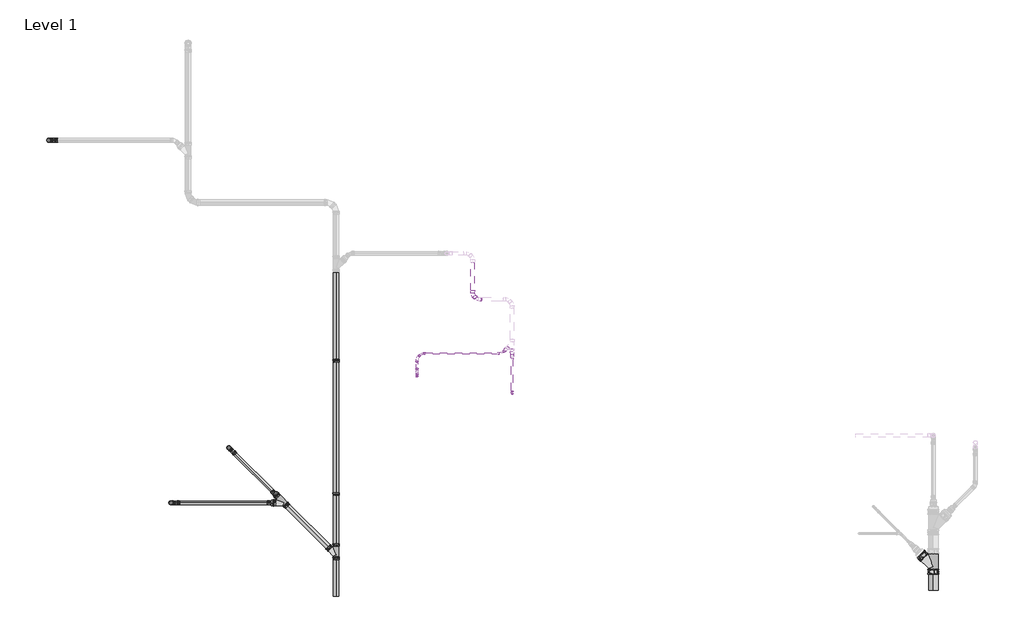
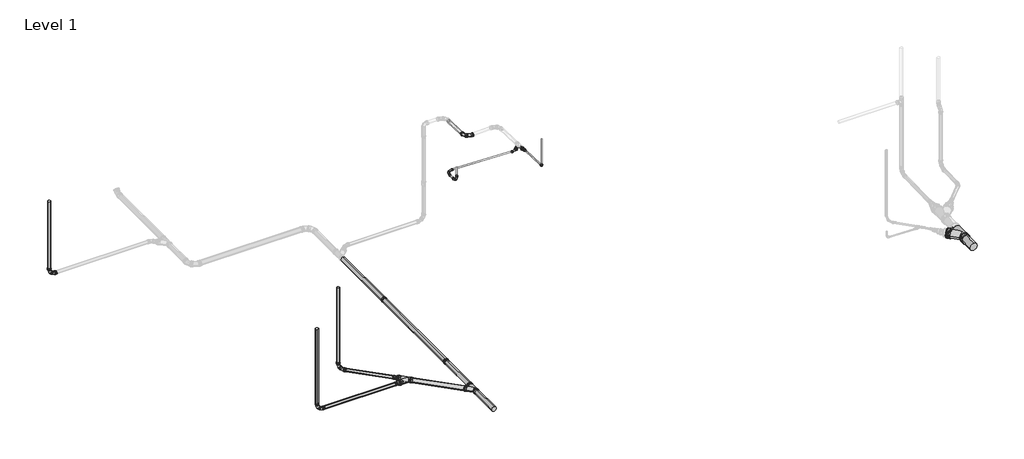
# One storey, part 1 of 7: 72 pipe fittings, 17 pipe segments.
"""IFC4 building model written with IfcOpenShell, lengths in millimetres."""

from ifc_helpers import new_model, si_unit, point, frame, frame_2d, origin, place, context, project, spatial, circle_curve, trimmed, segment, composite_curve, outline, extrude, transform, mapped, element, save
from components import std_37057e49, std_512bb775, std_3df9fb00, std_2878dd30, std_f0847e49, std_7ccef80b, std_0ddcd905, std_1f125482, std_4019324e, std_dbb25919, std_369a79f5, std_nested_5daa23bf, std_nested_5b5722a1, std_nested_f4b71964, std_nested_7094c661, std_nested_2aa3ba4e, std_nested_09001758, std_nested_0d9e00e9, std_nested_0554dc6d, std_nested_e6348f04, std_nested_a5353b42, std_nested_638a4417, std_nested_4ea8f2c9, std_nested_01edd257, std_nested_89a7624e, std_nested_dd60fd8d, std_nested_b0fd537b, std_nested_82956641, std_nested_596bb4c3, std_nested_6f421a5c, std_nested_473bf3f7, std_nested_352c3d66, std_nested_72f87268, std_nested_dc9893ff

model = new_model("IFC4")

# Units and contexts
model_context = context("Model", 3, world=origin())
ifc_project = project(units=[si_unit("LENGTHUNIT", "METRE", prefix="MILLI")], contexts=[model_context])

# Site, building, storey
site = spatial("IfcSite", under=ifc_project)
building = spatial("IfcBuilding", under=site)
storey = spatial("IfcBuildingStorey", under=building, Name="Level 1", Elevation=0.0)

# Pipe fittings
placement = place(None, origin())
std_shape = std_37057e49(model_context)
element("IfcPipeFitting", 1, ObjectType="PIF_ST_UN_GM-X angle bend 1a push socket_ACO : std", at=placement, inside=storey, context=model_context, shape_type="MappedRepresentation", body=[
    mapped(std_shape, transform((-19270.0353213, 4570.9654393, 3808.6513127), x_axis=(0.0, 0.0, -1.0), y_axis=(0.0, 1.0, 0.0), z_axis=(1.0, 0.0, 0.0))),
])
std_2_shape = std_512bb775(model_context)
element("IfcPipeFitting", 2, ObjectType="PIF_ST_UN_GM-X multibranch_ACO : std", at=placement, inside=storey, context=model_context, shape_type="MappedRepresentation", body=[
    mapped(std_2_shape, transform((-24268.2867366, 0.0, 15.5), x_axis=(0.0, 1.0, 0.0), y_axis=(-1.0, 0.0, 0.0), z_axis=(0.0, 0.0, 1.0))),
])
element("IfcPipeFitting", 3, ObjectType="PIF_ST_UN_GM-X multibranch_ACO : std", at=placement, inside=storey, context=model_context, shape_type="MappedRepresentation", body=[
    mapped(std_2_shape, transform((-25744.7256957, 1476.4389591, 15.5), x_axis=(-0.7071067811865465, 0.7071067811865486, 0.0), y_axis=(-0.7071067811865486, -0.7071067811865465, 0.0), z_axis=(0.0, 0.0, 1.0))),
])
std_3_shape = std_3df9fb00(model_context)
element("IfcPipeFitting", 4, ObjectType="PIF_ST_UN_GM-X multireducer_ACO : std", at=placement, inside=storey, context=model_context, shape_type="MappedRepresentation", body=[
    mapped(std_3_shape, transform((-19271.0829887, 5715.1373765, 3738.6352725), x_axis=(0.0, -0.9993880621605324, 0.03497858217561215), y_axis=(0.9993888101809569, -0.0012227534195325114, -0.034935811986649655), z_axis=(0.03495720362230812, 0.03495720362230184, 0.9987772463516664))),
])
std_4_shape = std_2878dd30(model_context)
element("IfcPipeFitting", 5, ObjectType="PIF_ST_UN_GM-X multireducer_ACO : std", at=placement, inside=storey, context=model_context, shape_type="MappedRepresentation", body=[
    mapped(std_4_shape, transform((-25974.5353996, 1706.248663, 15.5), x_axis=(-0.7071067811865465, 0.7071067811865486, 0.0), y_axis=(-0.7071067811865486, -0.7071067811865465, 0.0), z_axis=(0.0, 0.0, 1.0))),
])
std_5_shape = std_f0847e49(model_context)
element("IfcPipeFitting", 6, ObjectType="PIF_ST_UN_GM-X double bend_ACO : std", at=placement, inside=storey, context=model_context, shape_type="MappedRepresentation", body=[
    mapped(std_5_shape, transform((-32424.6112328, 11766.4867256, 15.5), x_axis=(0.0, 0.0, -1.0), y_axis=(1.0, 0.0, 0.0), z_axis=(0.0, -1.0, 0.0))),
])
std_6_shape = std_7ccef80b(model_context)
element("IfcPipeFitting", 7, ObjectType="PIF_ST_UN_GM-X double bend_ACO : std", at=placement, inside=storey, context=model_context, shape_type="MappedRepresentation", body=[
    mapped(std_6_shape, transform((-20392.1811992, 7253.2374554, 3645.5633324), x_axis=(0.0, -0.9993880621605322, 0.03497858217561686), y_axis=(0.999388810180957, 0.001222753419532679, 0.03493581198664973), z_axis=(-0.034957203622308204, 0.03495720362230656, 0.9987772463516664))),
])
std_7_shape = std_0ddcd905(model_context)
element("IfcPipeFitting", 8, ObjectType="PIF_ST_UN_GM-X double bend_ACO : std", at=placement, inside=storey, context=model_context, shape_type="MappedRepresentation", body=[
    mapped(std_7_shape, transform((-28953.2109771, 1476.4389591, 15.5), x_axis=(-1.0, 0.0, 0.0), y_axis=(0.0, 0.0, 1.0), z_axis=(0.0, 1.0, 0.0))),
])
element("IfcPipeFitting", 9, ObjectType="PIF_ST_UN_GM-X double bend_ACO : std", at=placement, inside=storey, context=model_context, shape_type="MappedRepresentation", body=[
    mapped(std_7_shape, transform((-27308.2867366, 3040.0, 15.5), x_axis=(-0.7071067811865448, 0.7071067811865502, 0.0), y_axis=(0.0, 0.0, 1.0), z_axis=(0.7071067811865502, 0.7071067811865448, 0.0))),
])
std_8_shape = std_1f125482(model_context)
element("IfcPipeFitting", 10, ObjectType="PIF_ST_UN_GM-X double bend_ACO : std", at=placement, inside=storey, context=model_context, shape_type="MappedRepresentation", body=[
    mapped(std_8_shape, transform((-21970.2567796, 5066.372396, 3857.4966439), x_axis=(0.0, 0.0, -1.0), y_axis=(0.0, 1.0, 0.0), z_axis=(1.0, 0.0, 0.0))),
])
std_9_shape = std_4019324e(model_context)
element("IfcPipeFitting", 11, ObjectType="PIF_ST_UN_GM-X double bend_ACO : std", at=placement, inside=storey, context=model_context, shape_type="MappedRepresentation", body=[
    mapped(std_9_shape, transform((-21970.2653393, 5714.7138398, 3857.291032), x_axis=(-0.9993881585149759, 8.1466941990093e-05, 0.0349757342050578), y_axis=(-8.449490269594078e-05, -0.9999999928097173, -8.509510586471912e-05), z_axis=(0.03497572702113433, -8.799831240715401e-05, 0.9993881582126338))),
])
std_10_shape = std_dbb25919(model_context)
element("IfcPipeFitting", 12, ObjectType="PIF_ST_UN_GM-X multibranch_ACO : std", at=placement, inside=storey, context=model_context, shape_type="MappedRepresentation", body=[
    mapped(std_10_shape, transform((-7316.8174194, -328.1618731, 10.0775719), x_axis=(0.0, 0.9998875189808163, 0.014998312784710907), y_axis=(-0.9999807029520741, -9.317528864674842e-05, 0.006211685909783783), z_axis=(0.006212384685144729, -0.014998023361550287, 0.9998682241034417))),
])
std_11_shape = std_369a79f5(model_context)
element("IfcPipeFitting", 13, ObjectType="PIF_ST_UN_GM-X pipe end_ACO : std", at=placement, inside=storey, context=model_context, shape_type="MappedRepresentation", body=[
    mapped(std_11_shape, transform((-24268.2867366, 5467.3315003, 15.5), x_axis=(0.0, -1.0, 0.0), y_axis=(1.0, 0.0, 0.0), z_axis=(0.0, 0.0, 1.0))),
])
element("IfcPipeFitting", 14, ObjectType="PIF_ST_UN_GM-X pipe end_ACO : std", at=placement, inside=storey, context=model_context, shape_type="MappedRepresentation", body=[
    mapped(std_11_shape, transform((-24268.2867366, 1687.2987057, 15.5), x_axis=(0.0, -1.0, 0.0), y_axis=(1.0, 0.0, 0.0), z_axis=(0.0, 0.0, 1.0))),
])
std_nested_shape = std_nested_5daa23bf(model_context)
element("IfcPipeFitting", 15, ObjectType="ZZZ_do not use_PIF_ST_UN_GM-X seal non transitional_ACO : std (nested)", at=placement, inside=storey, context=model_context, shape_type="MappedRepresentation", body=[
    mapped(std_nested_shape, transform((-19270.0353213, 4570.9654393, 3873.6513127), x_axis=(0.0, 0.0, 1.0), y_axis=(0.0, -1.0, 0.0), z_axis=(1.0, 0.0, 0.0))),
])
element("IfcPipeFitting", 16, ObjectType="ZZZ_do not use_PIF_ST_UN_GM-X seal non transitional_ACO : std (nested)", at=placement, inside=storey, context=model_context, shape_type="MappedRepresentation", body=[
    mapped(std_nested_shape, transform((-19270.0353213, 4620.9348424, 3806.9023836), x_axis=(0.0, -0.9993880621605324, 0.034978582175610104), y_axis=(0.0, 0.034978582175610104, 0.9993880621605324), z_axis=(-1.0, 0.0, 0.0))),
])
std_nested_2_shape = std_nested_5b5722a1(model_context)
element("IfcPipeFitting", 17, ObjectType="ZZZ_do not use_PIF_ST_UN_GM-X single branch_ACO : std (nested)", at=placement, inside=storey, context=model_context, shape_type="MappedRepresentation", body=[
    mapped(std_nested_2_shape, transform((-24268.2867366, 0.0, 15.5), x_axis=(0.0, 1.0, 0.0), y_axis=(-1.0, 0.0, 0.0), z_axis=(0.0, 0.0, 1.0))),
])
element("IfcPipeFitting", 18, ObjectType="ZZZ_do not use_PIF_ST_UN_GM-X single branch_ACO : std (nested)", at=placement, inside=storey, context=model_context, shape_type="MappedRepresentation", body=[
    mapped(std_nested_2_shape, transform((-25744.7256957, 1476.4389591, 15.5), x_axis=(-0.7071067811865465, 0.7071067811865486, 0.0), y_axis=(-0.7071067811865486, -0.7071067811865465, 0.0), z_axis=(0.0, 0.0, 1.0))),
])
std_nested_3_shape = std_nested_f4b71964(model_context)
element("IfcPipeFitting", 19, ObjectType="ZZZ_do not use_PIF_ST_UN_GM-X transition element_ACO : std (nested)", at=placement, inside=storey, context=model_context, shape_type="MappedRepresentation", body=[
    mapped(std_nested_3_shape, transform((-26069.7256957, 1476.4389591, 15.5), x_axis=(-1.0, 0.0, 0.0), y_axis=(0.0, -1.0, 0.0), z_axis=(0.0, 0.0, 1.0))),
])
element("IfcPipeFitting", 20, ObjectType="ZZZ_do not use_PIF_ST_UN_GM-X transition element_ACO : std (nested)", at=placement, inside=storey, context=model_context, shape_type="MappedRepresentation", body=[
    mapped(std_nested_3_shape, transform((-25974.5353996, 1706.248663, 15.5), x_axis=(-0.7071067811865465, 0.7071067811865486, 0.0), y_axis=(-0.7071067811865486, -0.7071067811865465, 0.0), z_axis=(0.0, 0.0, 1.0))),
])
std_nested_4_shape = std_nested_7094c661(model_context)
element("IfcPipeFitting", 21, ObjectType="ZZZ_do not use_PIF_ST_UN_GM-X transition element_ACO : std (nested)", at=placement, inside=storey, context=model_context, shape_type="MappedRepresentation", body=[
    mapped(std_nested_4_shape, transform((-19435.9972634, 5842.5575691, 3739.9475654), x_axis=(-0.7062709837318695, -0.7062133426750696, 0.04943695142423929), y_axis=(-0.7070779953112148, 0.7071355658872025, -2.0149701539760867e-06), z_axis=(-0.034957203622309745, -0.03495720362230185, -0.9987772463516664))),
])
std_nested_5_shape = std_nested_2aa3ba4e(model_context)
element("IfcPipeFitting", 22, ObjectType="ZZZ_do not use_PIF_ST_UN_GM-X transition element_ACO : std (nested)", at=placement, inside=storey, context=model_context, shape_type="MappedRepresentation", body=[
    mapped(std_nested_5_shape, transform((-19271.0829887, 5772.60219, 3736.624004), x_axis=(0.0, -0.9993880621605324, 0.03497858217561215), y_axis=(0.9993888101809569, -0.0012227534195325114, -0.034935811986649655), z_axis=(0.03495720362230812, 0.03495720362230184, 0.9987772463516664))),
])
std_nested_6_shape = std_nested_09001758(model_context)
element("IfcPipeFitting", 23, ObjectType="ZZZ_do not use_PIF_ST_UN_GM-X transition element_ACO : std (nested)", at=placement, inside=storey, context=model_context, shape_type="MappedRepresentation", body=[
    mapped(std_nested_6_shape, transform((-19270.5771579, 5635.6921622, 3755.8858658), x_axis=(0.0, -0.9993880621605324, 0.03497858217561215), y_axis=(0.9993888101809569, -0.0012227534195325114, -0.034935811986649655), z_axis=(0.03495720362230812, 0.03495720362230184, 0.9987772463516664))),
])
std_nested_7_shape = std_nested_0d9e00e9(model_context)
element("IfcPipeFitting", 24, ObjectType="ZZZ_do not use_PIF_ST_UN_GM-X pipe bend_ACO : std (nested)", at=placement, inside=storey, context=model_context, shape_type="MappedRepresentation", body=[
    mapped(std_nested_7_shape, transform((-28953.2109771, 1476.4389591, 141.3650071), x_axis=(-0.707106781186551, 0.0, 0.707106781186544), y_axis=(0.707106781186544, 0.0, 0.707106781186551), z_axis=(0.0, 1.0, 0.0))),
])
element("IfcPipeFitting", 25, ObjectType="ZZZ_do not use_PIF_ST_UN_GM-X pipe bend_ACO : std (nested)", at=placement, inside=storey, context=model_context, shape_type="MappedRepresentation", body=[
    mapped(std_nested_7_shape, transform((-27308.2867366, 3040.0, 141.3650071), x_axis=(-0.5000000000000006, 0.5000000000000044, 0.707106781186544), y_axis=(0.4999999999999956, -0.49999999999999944, 0.707106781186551), z_axis=(0.7071067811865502, 0.7071067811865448, 0.0))),
])
std_nested_8_shape = std_nested_0554dc6d(model_context)
element("IfcPipeFitting", 26, ObjectType="ZZZ_do not use_PIF_ST_UN_GM-X pipe bend_ACO : std (nested)", at=placement, inside=storey, context=model_context, shape_type="MappedRepresentation", body=[
    mapped(std_nested_8_shape, transform((-32424.6112328, 11766.4867256, 141.3650071), x_axis=(0.0, 0.0, -1.0), y_axis=(1.0, 0.0, 0.0), z_axis=(0.0, -1.0, 0.0))),
])
std_nested_9_shape = std_nested_e6348f04(model_context)
element("IfcPipeFitting", 27, ObjectType="ZZZ_do not use_PIF_ST_UN_GM-X pipe bend_ACO : std (nested)", at=placement, inside=storey, context=model_context, shape_type="MappedRepresentation", body=[
    mapped(std_nested_9_shape, transform((-32298.7462258, 11766.4867256, 15.5), x_axis=(0.707106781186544, 0.0, -0.707106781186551), y_axis=(0.707106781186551, 0.0, 0.707106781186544), z_axis=(0.0, -1.0, 0.0))),
])
std_nested_10_shape = std_nested_a5353b42(model_context)
element("IfcPipeFitting", 28, ObjectType="ZZZ_do not use_PIF_ST_UN_GM-X pipe bend_ACO : std (nested)", at=placement, inside=storey, context=model_context, shape_type="MappedRepresentation", body=[
    mapped(std_nested_10_shape, transform((-20392.1811992, 7378.9485606, 3641.1634437), x_axis=(0.0, -0.9993880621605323, 0.03497858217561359), y_axis=(0.999388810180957, 0.0012227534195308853, 0.034935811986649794), z_axis=(-0.034957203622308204, 0.03495720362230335, 0.9987772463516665))),
])
std_nested_11_shape = std_nested_638a4417(model_context)
element("IfcPipeFitting", 29, ObjectType="ZZZ_do not use_PIF_ST_UN_GM-X pipe bend_ACO : std (nested)", at=placement, inside=storey, context=model_context, shape_type="MappedRepresentation", body=[
    mapped(std_nested_11_shape, transform((-20266.470094, 7253.2374554, 3649.963221), x_axis=(0.7062421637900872, -0.7062421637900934, 0.04943695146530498), y_axis=(0.7071067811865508, 0.7071067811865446, 0.0), z_axis=(-0.034957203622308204, 0.03495720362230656, 0.9987772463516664))),
])
std_nested_12_shape = std_nested_4ea8f2c9(model_context)
element("IfcPipeFitting", 30, ObjectType="ZZZ_do not use_PIF_ST_UN_GM-X pipe bend_ACO : std (nested)", at=placement, inside=storey, context=model_context, shape_type="MappedRepresentation", body=[
    mapped(std_nested_12_shape, transform((-19564.047851, 5714.517501, 3773.0802917), x_axis=(-0.7062709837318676, -0.7062133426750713, 0.04943695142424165), y_axis=(-0.7070779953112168, 0.7071355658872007, -2.0149701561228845e-06), z_axis=(-0.03495720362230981, -0.03495720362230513, -0.9987772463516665))),
])
std_nested_13_shape = std_nested_01edd257(model_context)
element("IfcPipeFitting", 31, ObjectType="ZZZ_do not use_PIF_ST_UN_GM-X pipe bend_ACO : std (nested)", at=placement, inside=storey, context=model_context, shape_type="MappedRepresentation", body=[
    mapped(std_nested_13_shape, transform((-28827.34597, 1476.4389591, 15.5), x_axis=(-1.0, 0.0, 0.0), y_axis=(0.0, 0.0, 1.0), z_axis=(0.0, 1.0, 0.0))),
])
element("IfcPipeFitting", 32, ObjectType="ZZZ_do not use_PIF_ST_UN_GM-X pipe bend_ACO : std (nested)", at=placement, inside=storey, context=model_context, shape_type="MappedRepresentation", body=[
    mapped(std_nested_13_shape, transform((-27219.2867366, 2951.0, 15.5), x_axis=(-0.707106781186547, 0.707106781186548, 0.0), y_axis=(0.0, 0.0, 1.0), z_axis=(0.707106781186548, 0.707106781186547, 0.0))),
])
std_nested_14_shape = std_nested_89a7624e(model_context)
element("IfcPipeFitting", 33, ObjectType="ZZZ_do not use_PIF_ST_UN_GM-X pipe bend_ACO : std (nested)", at=placement, inside=storey, context=model_context, shape_type="MappedRepresentation", body=[
    mapped(std_nested_14_shape, transform((-21970.2567796, 5066.372396, 3984.7814685), x_axis=(0.0, 0.0, -1.0), y_axis=(0.0, 1.0, 0.0), z_axis=(1.0, 0.0, 0.0))),
])
std_nested_15_shape = std_nested_dd60fd8d(model_context)
element("IfcPipeFitting", 34, ObjectType="ZZZ_do not use_PIF_ST_UN_GM-X pipe bend_ACO : std (nested)", at=placement, inside=storey, context=model_context, shape_type="MappedRepresentation", body=[
    mapped(std_nested_15_shape, transform((-21970.2567796, 5193.6572201, 3857.5078516), x_axis=(0.0, 0.7071379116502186, -0.7070756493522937), y_axis=(0.0, 0.7070756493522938, 0.7071379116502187), z_axis=(1.0000000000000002, 0.0, 0.0))),
])
std_nested_16_shape = std_nested_b0fd537b(model_context)
element("IfcPipeFitting", 35, ObjectType="ZZZ_do not use_PIF_ST_UN_GM-X pipe bend_ACO : std (nested)", at=placement, inside=storey, context=model_context, shape_type="MappedRepresentation", body=[
    mapped(std_nested_16_shape, transform((-21843.0586158, 5714.7034703, 3852.8391596), x_axis=(-0.999388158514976, 8.146694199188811e-05, 0.034975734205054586), y_axis=(-8.449490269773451e-05, -0.9999999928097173, -8.509510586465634e-05), z_axis=(0.034975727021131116, -8.799831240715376e-05, 0.9993881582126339))),
])
std_nested_17_shape = std_nested_82956641(model_context)
element("IfcPipeFitting", 36, ObjectType="ZZZ_do not use_PIF_ST_UN_GM-X pipe bend_ACO : std (nested)", at=placement, inside=storey, context=model_context, shape_type="MappedRepresentation", body=[
    mapped(std_nested_17_shape, transform((-21970.2653393, 5587.4292388, 3857.2798243), x_axis=(-0.7067040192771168, -0.7070790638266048, 0.024670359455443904), y_axis=(0.7066442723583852, -0.7071344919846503, -0.024792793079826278), z_axis=(0.03497572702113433, -8.799831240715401e-05, 0.9993881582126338))),
])
std_nested_18_shape = std_nested_596bb4c3(model_context)
element("IfcPipeFitting", 37, ObjectType="ZZZ_do not use_PIF_ST_UN_GM-X rapid clamp_ACO : std (nested)", at=placement, inside=storey, context=model_context, shape_type="MappedRepresentation", body=[
    mapped(std_nested_18_shape, transform((-7316.8174194, -476.1452259, 7.8578216), x_axis=(0.0, -0.9998875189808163, -0.014998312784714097), y_axis=(-0.006212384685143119, 0.014998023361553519, -0.9998682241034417), z_axis=(0.9999807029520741, 9.317528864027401e-05, -0.00621168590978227))),
])
element("IfcPipeFitting", 38, ObjectType="ZZZ_do not use_PIF_ST_UN_GM-X rapid clamp_ACO : std (nested)", at=placement, inside=storey, context=model_context, shape_type="MappedRepresentation", body=[
    mapped(std_nested_18_shape, transform((-7622.9602165, -22.019076, 16.5718413), x_axis=(-0.7070272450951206, 0.7070272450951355, 0.014998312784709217), y_axis=(-0.006212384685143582, 0.014998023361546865, -0.9998682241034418), z_axis=(-0.7071590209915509, -0.7070272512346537, -0.006211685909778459))),
])
std_nested_19_shape = std_nested_6f421a5c(model_context)
element("IfcPipeFitting", 39, ObjectType="ZZZ_do not use_PIF_ST_UN_GM-X universal claw_ACO : std (nested)", at=placement, inside=storey, context=model_context, shape_type="MappedRepresentation", body=[
    mapped(std_nested_19_shape, transform((-7316.8174194, -476.1452259, 7.8578216), x_axis=(0.0, -0.9998875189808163, -0.014998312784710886), y_axis=(-0.9999807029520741, -9.317528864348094e-05, 0.0062116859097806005), z_axis=(-0.006212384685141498, 0.014998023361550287, -0.9998682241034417))),
])
element("IfcPipeFitting", 40, ObjectType="ZZZ_do not use_PIF_ST_UN_GM-X universal claw_ACO : std (nested)", at=placement, inside=storey, context=model_context, shape_type="MappedRepresentation", body=[
    mapped(std_nested_19_shape, transform((-7622.9602165, -22.019076, 16.5718413), x_axis=(-0.7070272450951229, 0.7070272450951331, 0.014998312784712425), y_axis=(0.7071590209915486, 0.707027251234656, 0.006211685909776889), z_axis=(-0.006212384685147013, 0.014998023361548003, -0.9998682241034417))),
])
std_nested_20_shape = std_nested_473bf3f7(model_context)
element("IfcPipeFitting", 41, ObjectType="ZZZ_do not use_PIF_ST_UN_GM-X seal non transitional_ACO : std (nested)", at=placement, inside=storey, context=model_context, shape_type="MappedRepresentation", body=[
    mapped(std_nested_20_shape, transform((-32424.6112328, 11766.4867256, 265.3650071), x_axis=(0.0, 0.0, 1.0), y_axis=(-1.0, 0.0, 0.0), z_axis=(0.0, -1.0, 0.0))),
])
element("IfcPipeFitting", 42, ObjectType="ZZZ_do not use_PIF_ST_UN_GM-X seal non transitional_ACO : std (nested)", at=placement, inside=storey, context=model_context, shape_type="MappedRepresentation", body=[
    mapped(std_nested_20_shape, transform((-32386.4274666, 11766.4867256, 103.1812409), x_axis=(-0.7071067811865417, 0.0, 0.7071067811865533), y_axis=(-0.7071067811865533, 0.0, -0.7071067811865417), z_axis=(0.0, -1.0, 0.0))),
])
element("IfcPipeFitting", 43, ObjectType="ZZZ_do not use_PIF_ST_UN_GM-X seal non transitional_ACO : std (nested)", at=placement, inside=storey, context=model_context, shape_type="MappedRepresentation", body=[
    mapped(std_nested_20_shape, transform((-19429.99396, 5848.5603826, 3739.5273513), x_axis=(-0.7062709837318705, -0.7062133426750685, 0.04943695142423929), y_axis=(-0.7070779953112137, 0.7071355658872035, -2.0149701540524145e-06), z_axis=(-0.034957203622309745, -0.03495720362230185, -0.9987772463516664))),
])
element("IfcPipeFitting", 44, ObjectType="ZZZ_do not use_PIF_ST_UN_GM-X seal non transitional_ACO : std (nested)", at=placement, inside=storey, context=model_context, shape_type="MappedRepresentation", body=[
    mapped(std_nested_20_shape, transform((-19271.0829887, 5782.5960707, 3736.2742182), x_axis=(0.0, -0.9993880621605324, 0.03497858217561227), y_axis=(-0.9993888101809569, 0.00122275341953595, 0.03493581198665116), z_axis=(-0.034957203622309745, -0.03495720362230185, -0.9987772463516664))),
])
element("IfcPipeFitting", 45, ObjectType="ZZZ_do not use_PIF_ST_UN_GM-X seal non transitional_ACO : std (nested)", at=placement, inside=storey, context=model_context, shape_type="MappedRepresentation", body=[
    mapped(std_nested_20_shape, transform((-26224.7256957, 1476.4389591, 15.5), x_axis=(-1.0, 0.0, 0.0), y_axis=(0.0, -1.0, 0.0), z_axis=(0.0, 0.0, 1.0))),
])
element("IfcPipeFitting", 46, ObjectType="ZZZ_do not use_PIF_ST_UN_GM-X seal non transitional_ACO : std (nested)", at=placement, inside=storey, context=model_context, shape_type="MappedRepresentation", body=[
    mapped(std_nested_20_shape, transform((-26084.1369507, 1815.8502141, 15.5), x_axis=(-0.7071067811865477, 0.7071067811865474, 0.0), y_axis=(-0.7071067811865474, -0.7071067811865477, 0.0), z_axis=(0.0, 0.0, 1.0))),
])
element("IfcPipeFitting", 47, ObjectType="ZZZ_do not use_PIF_ST_UN_GM-X seal non transitional_ACO : std (nested)", at=placement, inside=storey, context=model_context, shape_type="MappedRepresentation", body=[
    mapped(std_nested_20_shape, transform((-32244.7462258, 11766.4867256, 15.5), x_axis=(-1.0, 0.0, 0.0), y_axis=(0.0, 0.0, -1.0), z_axis=(0.0, -1.0, 0.0))),
])
element("IfcPipeFitting", 48, ObjectType="ZZZ_do not use_PIF_ST_UN_GM-X seal non transitional_ACO : std (nested)", at=placement, inside=storey, context=model_context, shape_type="MappedRepresentation", body=[
    mapped(std_nested_20_shape, transform((-20304.6071708, 7291.3745323, 3647.2936257), x_axis=(0.7062421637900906, -0.7062421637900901, 0.04943695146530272), y_axis=(0.7071067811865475, 0.707106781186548, 0.0), z_axis=(-0.034957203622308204, 0.03495720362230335, 0.9987772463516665))),
])
element("IfcPipeFitting", 49, ObjectType="ZZZ_do not use_PIF_ST_UN_GM-X seal non transitional_ACO : std (nested)", at=placement, inside=storey, context=model_context, shape_type="MappedRepresentation", body=[
    mapped(std_nested_20_shape, transform((-20392.1811992, 7432.9155159, 3639.2746002), x_axis=(0.0, -0.9993880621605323, 0.034978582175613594), y_axis=(0.999388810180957, 0.0012227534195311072, 0.03493581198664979), z_axis=(-0.034957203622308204, 0.03495720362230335, 0.9987772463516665))),
])
element("IfcPipeFitting", 50, ObjectType="ZZZ_do not use_PIF_ST_UN_GM-X seal non transitional_ACO : std (nested)", at=placement, inside=storey, context=model_context, shape_type="MappedRepresentation", body=[
    mapped(std_nested_20_shape, transform((-20142.5459743, 7253.2374554, 3654.3005652), x_axis=(0.9993880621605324, 0.0, 0.03497858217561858), y_axis=(0.0012227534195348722, 0.9993888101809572, -0.03493581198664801), z_axis=(-0.034957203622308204, 0.03495720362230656, 0.9987772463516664))),
])
element("IfcPipeFitting", 51, ObjectType="ZZZ_do not use_PIF_ST_UN_GM-X seal non transitional_ACO : std (nested)", at=placement, inside=storey, context=model_context, shape_type="MappedRepresentation", body=[
    mapped(std_nested_20_shape, transform((-28915.0272109, 1476.4389591, 103.1812409), x_axis=(-0.707106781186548, 0.0, 0.7071067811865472), y_axis=(0.7071067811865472, 0.0, 0.707106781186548), z_axis=(0.0, 1.0, 0.0))),
])
element("IfcPipeFitting", 52, ObjectType="ZZZ_do not use_PIF_ST_UN_GM-X seal non transitional_ACO : std (nested)", at=placement, inside=storey, context=model_context, shape_type="MappedRepresentation", body=[
    mapped(std_nested_20_shape, transform((-28773.34597, 1476.4389591, 15.5), x_axis=(-1.0, 0.0, 0.0), y_axis=(0.0, 0.0, 1.0), z_axis=(0.0, 1.0, 0.0))),
])
element("IfcPipeFitting", 53, ObjectType="ZZZ_do not use_PIF_ST_UN_GM-X seal non transitional_ACO : std (nested)", at=placement, inside=storey, context=model_context, shape_type="MappedRepresentation", body=[
    mapped(std_nested_20_shape, transform((-28953.2109771, 1476.4389591, 265.3650071), x_axis=(0.0, 0.0, 1.0), y_axis=(1.0, 0.0, 0.0), z_axis=(0.0, 1.0, 0.0))),
])
element("IfcPipeFitting", 54, ObjectType="ZZZ_do not use_PIF_ST_UN_GM-X seal non transitional_ACO : std (nested)", at=placement, inside=storey, context=model_context, shape_type="MappedRepresentation", body=[
    mapped(std_nested_20_shape, transform((-27281.2867366, 3013.0, 103.1812409), x_axis=(-0.5, 0.5000000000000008, 0.7071067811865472), y_axis=(0.49999999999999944, -0.5000000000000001, 0.707106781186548), z_axis=(0.707106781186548, 0.707106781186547, 0.0))),
])
element("IfcPipeFitting", 55, ObjectType="ZZZ_do not use_PIF_ST_UN_GM-X seal non transitional_ACO : std (nested)", at=placement, inside=storey, context=model_context, shape_type="MappedRepresentation", body=[
    mapped(std_nested_20_shape, transform((-27181.1029704, 2912.8162338, 15.5), x_axis=(-0.707106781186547, 0.707106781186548, 0.0), y_axis=(0.0, 0.0, 1.0), z_axis=(0.707106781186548, 0.707106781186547, 0.0))),
])
element("IfcPipeFitting", 56, ObjectType="ZZZ_do not use_PIF_ST_UN_GM-X seal non transitional_ACO : std (nested)", at=placement, inside=storey, context=model_context, shape_type="MappedRepresentation", body=[
    mapped(std_nested_20_shape, transform((-27308.2867366, 3040.0, 265.3650071), x_axis=(0.0, 0.0, 1.0), y_axis=(0.7071067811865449, -0.7071067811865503, 0.0), z_axis=(0.7071067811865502, 0.7071067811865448, 0.0))),
])
std_nested_21_shape = std_nested_352c3d66(model_context)
element("IfcPipeFitting", 57, ObjectType="ZZZ_do not use_PIF_ST_UN_GM-X seal non transitional_ACO : std (nested)", at=placement, inside=storey, context=model_context, shape_type="MappedRepresentation", body=[
    mapped(std_nested_21_shape, transform((-21970.2567796, 5066.372396, 4098.7814685), x_axis=(0.0, 0.0, 1.0), y_axis=(0.0, -1.0, 0.0), z_axis=(1.0, 0.0, 0.0))),
])
element("IfcPipeFitting", 58, ObjectType="ZZZ_do not use_PIF_ST_UN_GM-X seal non transitional_ACO : std (nested)", at=placement, inside=storey, context=model_context, shape_type="MappedRepresentation", body=[
    mapped(std_nested_21_shape, transform((-21970.2567796, 5113.0434981, 3938.1144756), x_axis=(0.0, -0.7071379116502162, 0.707075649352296), y_axis=(0.0, -0.7070756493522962, -0.7071379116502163), z_axis=(1.0000000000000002, 0.0, 0.0))),
])
element("IfcPipeFitting", 59, ObjectType="ZZZ_do not use_PIF_ST_UN_GM-X seal non transitional_ACO : std (nested)", at=placement, inside=storey, context=model_context, shape_type="MappedRepresentation", body=[
    mapped(std_nested_21_shape, transform((-19517.4339661, 5761.1275816, 3769.8174529), x_axis=(-0.7062709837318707, -0.7062133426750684, 0.04943695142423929), y_axis=(-0.7070779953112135, 0.7071355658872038, -2.014970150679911e-06), z_axis=(-0.03495720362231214, -0.034957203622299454, -0.9987772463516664))),
])
element("IfcPipeFitting", 60, ObjectType="ZZZ_do not use_PIF_ST_UN_GM-X seal non transitional_ACO : std (nested)", at=placement, inside=storey, context=model_context, shape_type="MappedRepresentation", body=[
    mapped(std_nested_21_shape, transform((-21970.2567796, 5259.6572198, 3857.513663), x_axis=(0.0, -0.9999999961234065, -8.805218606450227e-05), y_axis=(0.0, 8.805218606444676e-05, -0.9999999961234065), z_axis=(1.0000000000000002, 0.0, 0.0))),
])
element("IfcPipeFitting", 61, ObjectType="ZZZ_do not use_PIF_ST_UN_GM-X seal non transitional_ACO : std (nested)", at=placement, inside=storey, context=model_context, shape_type="MappedRepresentation", body=[
    mapped(std_nested_21_shape, transform((-21923.622874, 5634.096457, 3855.6515805), x_axis=(-0.7067040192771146, -0.707079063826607, 0.024670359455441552), y_axis=(0.7066442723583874, -0.7071344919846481, -0.024792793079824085), z_axis=(0.034975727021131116, -8.799831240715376e-05, 0.9993881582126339))),
])
element("IfcPipeFitting", 62, ObjectType="ZZZ_do not use_PIF_ST_UN_GM-X seal non transitional_ACO : std (nested)", at=placement, inside=storey, context=model_context, shape_type="MappedRepresentation", body=[
    mapped(std_nested_21_shape, transform((-21777.0989973, 5714.6980935, 3850.5307611), x_axis=(-0.999388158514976, 8.146694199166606e-05, 0.034975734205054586), y_axis=(-8.44949026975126e-05, -0.9999999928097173, -8.50951058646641e-05), z_axis=(0.034975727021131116, -8.799831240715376e-05, 0.9993881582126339))),
])
element("IfcPipeFitting", 63, ObjectType="ZZZ_do not use_PIF_ST_UN_GM-X seal non transitional_ACO : std (nested)", at=placement, inside=storey, context=model_context, shape_type="MappedRepresentation", body=[
    mapped(std_nested_21_shape, transform((-21970.2653393, 5473.4292392, 3857.2697863), x_axis=(0.0, -0.9999999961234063, -8.805218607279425e-05), y_axis=(0.9993881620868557, 3.0796892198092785e-06, -0.03497572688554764), z_axis=(0.03497572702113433, -8.799831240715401e-05, 0.9993881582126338))),
])
std_nested_22_shape = std_nested_72f87268(model_context)
element("IfcPipeFitting", 64, ObjectType="ZZZ_do not use_PIF_ST_UN_GM-X seal non transitional_ACO : std (nested)", at=placement, inside=storey, context=model_context, shape_type="MappedRepresentation", body=[
    mapped(std_nested_22_shape, transform((-24494.5609066, 226.27417, 15.5), x_axis=(-0.7071067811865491, 0.7071067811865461, 0.0), y_axis=(-0.7071067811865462, -0.7071067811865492, 0.0), z_axis=(0.0, 0.0, 1.0000000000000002))),
])
element("IfcPipeFitting", 65, ObjectType="ZZZ_do not use_PIF_ST_UN_GM-X seal non transitional_ACO : std (nested)", at=placement, inside=storey, context=model_context, shape_type="MappedRepresentation", body=[
    mapped(std_nested_22_shape, transform((-24268.2867366, 320.0, 15.5), x_axis=(0.0, 1.0, 0.0), y_axis=(-1.0, 0.0, 0.0), z_axis=(0.0, 0.0, 1.0))),
])
element("IfcPipeFitting", 66, ObjectType="ZZZ_do not use_PIF_ST_UN_GM-X seal non transitional_ACO : std (nested)", at=placement, inside=storey, context=model_context, shape_type="MappedRepresentation", body=[
    mapped(std_nested_22_shape, transform((-26064.7256957, 1476.4389591, 15.5), x_axis=(-1.0000000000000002, 0.0, 0.0), y_axis=(0.0, -1.0000000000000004, 0.0), z_axis=(0.0, 0.0, 1.0000000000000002))),
])
element("IfcPipeFitting", 67, ObjectType="ZZZ_do not use_PIF_ST_UN_GM-X seal non transitional_ACO : std (nested)", at=placement, inside=storey, context=model_context, shape_type="MappedRepresentation", body=[
    mapped(std_nested_22_shape, transform((-25970.9998657, 1702.7131291, 15.5), x_axis=(-0.7071067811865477, 0.7071067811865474, 0.0), y_axis=(-0.7071067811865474, -0.7071067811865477, 0.0), z_axis=(0.0, 0.0, 1.0))),
])
element("IfcPipeFitting", 68, ObjectType="ZZZ_do not use_PIF_ST_UN_GM-X seal non transitional_ACO : std (nested)", at=placement, inside=storey, context=model_context, shape_type="MappedRepresentation", body=[
    mapped(std_nested_22_shape, transform((-24268.2867366, 5547.3315003, 15.5), x_axis=(0.0, 1.0, 0.0), y_axis=(-1.0, 0.0, 0.0), z_axis=(0.0, 0.0, 1.0))),
])
element("IfcPipeFitting", 69, ObjectType="ZZZ_do not use_PIF_ST_UN_GM-X seal non transitional_ACO : std (nested)", at=placement, inside=storey, context=model_context, shape_type="MappedRepresentation", body=[
    mapped(std_nested_22_shape, transform((-24268.2867366, 1767.2987057, 15.5), x_axis=(0.0, 1.0, 0.0), y_axis=(-1.0, 0.0, 0.0), z_axis=(0.0, 0.0, 1.0))),
])
element("IfcPipeFitting", 70, ObjectType="ZZZ_do not use_PIF_ST_UN_GM-X seal non transitional_ACO : std (nested)", at=placement, inside=storey, context=model_context, shape_type="MappedRepresentation", body=[
    mapped(std_nested_22_shape, transform((-24268.2867366, -60.0, 15.5), x_axis=(0.0, 1.0, 0.0), y_axis=(1.0, 0.0, 0.0), z_axis=(0.0, 0.0, -1.0))),
])
element("IfcPipeFitting", 71, ObjectType="ZZZ_do not use_PIF_ST_UN_GM-X seal non transitional_ACO : std (nested)", at=placement, inside=storey, context=model_context, shape_type="MappedRepresentation", body=[
    mapped(std_nested_22_shape, transform((-25702.2992888, 1434.0125522, 15.5), x_axis=(-0.7071067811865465, 0.7071067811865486, 0.0), y_axis=(0.7071067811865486, 0.7071067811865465, 0.0), z_axis=(0.0, 0.0, -1.0))),
])
std_nested_23_shape = std_nested_dc9893ff(model_context)
element("IfcPipeFitting", 72, ObjectType="ZZZ_do not use_PIF_ST_UN_GM-X single branch socket free_ACO : std (nested)", at=placement, inside=storey, context=model_context, shape_type="MappedRepresentation", body=[
    mapped(std_nested_23_shape, transform((-7316.8174194, -328.1618731, 10.0775719), x_axis=(0.0, 0.9998875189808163, 0.014998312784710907), y_axis=(-0.9999807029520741, -9.317528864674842e-05, 0.006211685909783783), z_axis=(0.006212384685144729, -0.014998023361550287, 0.9998682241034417))),
])

# Pipe segments
element("IfcPipeSegment", 73, ObjectType="GM-X pipe complex", at=placement, inside=storey, context=model_context, shape_type="SweptSolid", body=[
    extrude(outline(composite_curve([segment(trimmed(circle_curve(frame_2d((0.0, -136.5)), 136.5), [point((-136.5, -136.5))], [point((0.0, 0.0))], False, "CARTESIAN"), True, "CONTINUOUS"), segment(trimmed(circle_curve(frame_2d((0.0, -136.5)), 136.5), [point((0.0, 0.0))], [point((136.5, -136.5))], False, "CARTESIAN"), True, "CONTINUOUS"), segment(trimmed(circle_curve(frame_2d((0.0, -136.5)), 136.5), [point((136.5, -136.5))], [point((0.0, -272.9999999))], False, "CARTESIAN"), True, "CONTINUOUS"), segment(trimmed(circle_curve(frame_2d((0.0, -136.5)), 136.5), [point((0.0, -272.9999999))], [point((-136.5, -136.5))], False, "CARTESIAN"), True, "CONTINUOUS")], self_intersect=False)), frame((-7316.8174194, -997.9527303, -136.4846463), z_axis=(0.0, 0.9998875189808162, 0.014998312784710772), x_axis=(1.0, 0.0, 0.0)), (0.0, 0.0, 1.0), 520.9137044),
])
element("IfcPipeSegment", 74, ObjectType="GM-X pipe complex", at=placement, inside=storey, context=model_context, shape_type="SweptSolid", body=[
    extrude(outline(composite_curve([segment(trimmed(circle_curve(frame_2d((15.5, -24268.2867366)), 79.5), [point((15.5, -24347.7867366))], [point((-64.0, -24268.2867366))], False, "CARTESIAN"), True, "CONTINUOUS"), segment(trimmed(circle_curve(frame_2d((15.5, -24268.2867366)), 79.5), [point((-64.0, -24268.2867366))], [point((15.5, -24188.7867366))], False, "CARTESIAN"), True, "CONTINUOUS"), segment(trimmed(circle_curve(frame_2d((15.5, -24268.2867366)), 79.5), [point((15.5, -24188.7867366))], [point((95.0, -24268.2867366))], False, "CARTESIAN"), True, "CONTINUOUS"), segment(trimmed(circle_curve(frame_2d((15.5, -24268.2867366)), 79.5), [point((95.0, -24268.2867366))], [point((15.5, -24347.7867366))], False, "CARTESIAN"), True, "CONTINUOUS")], self_intersect=False)), frame((0.0, -1177.1676841, 0.0), z_axis=(0.0, 1.0, 0.0), x_axis=(0.0, 0.0, 1.0)), (0.0, 0.0, 1.0), 1037.1676841),
])
element("IfcPipeSegment", 75, ObjectType="GM-X pipe complex", at=placement, inside=storey, context=model_context, shape_type="SweptSolid", body=[
    extrude(outline(composite_curve([segment(trimmed(circle_curve(frame_2d((-32424.6112328, 11766.4867256)), 51.5), [point((-32373.1112328, 11766.4867256))], [point((-32424.6112328, 11714.9867256))], False, "CARTESIAN"), True, "CONTINUOUS"), segment(trimmed(circle_curve(frame_2d((-32424.6112328, 11766.4867256)), 51.5), [point((-32424.6112328, 11714.9867256))], [point((-32476.1112328, 11766.4867256))], False, "CARTESIAN"), True, "CONTINUOUS"), segment(trimmed(circle_curve(frame_2d((-32424.6112328, 11766.4867256)), 51.5), [point((-32476.1112328, 11766.4867256))], [point((-32424.6112328, 11817.9867256))], False, "CARTESIAN"), True, "CONTINUOUS"), segment(trimmed(circle_curve(frame_2d((-32424.6112328, 11766.4867256)), 51.5), [point((-32424.6112328, 11817.9867256))], [point((-32373.1112328, 11766.4867256))], False, "CARTESIAN"), True, "CONTINUOUS")], self_intersect=False)), frame((0.0, 0.0, 195.3650071), z_axis=(0.0, 0.0, 1.0), x_axis=(1.0, 0.0, 0.0)), (0.0, 0.0, 1.0), 2547.8349929),
])
element("IfcPipeSegment", 76, ObjectType="GM-X pipe complex", at=placement, inside=storey, context=model_context, shape_type="SweptSolid", body=[
    extrude(outline(composite_curve([segment(trimmed(circle_curve(frame_2d((0.0, 51.5)), 51.5), [point((-51.5, 51.5))], [point((0.0, 103.0))], False, "CARTESIAN"), True, "CONTINUOUS"), segment(trimmed(circle_curve(frame_2d((0.0, 51.5)), 51.5), [point((0.0, 103.0))], [point((51.5, 51.5))], False, "CARTESIAN"), True, "CONTINUOUS"), segment(trimmed(circle_curve(frame_2d((0.0, 51.5)), 51.5), [point((51.5, 51.5))], [point((0.0, 0.0))], False, "CARTESIAN"), True, "CONTINUOUS"), segment(trimmed(circle_curve(frame_2d((0.0, 51.5)), 51.5), [point((0.0, 0.0))], [point((-51.5, 51.5))], False, "CARTESIAN"), True, "CONTINUOUS")], self_intersect=False)), frame((-20392.1811992, 8305.8843976, 3557.1891553), z_axis=(0.0, -0.9993880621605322, 0.034978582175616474), x_axis=(1.0, 0.0, 0.0)), (0.0, 0.0, 1.0), 805.3059115),
])
element("IfcPipeSegment", 77, ObjectType="GM-X pipe complex", at=placement, inside=storey, context=model_context, shape_type="SweptSolid", body=[
    extrude(outline(composite_curve([segment(trimmed(circle_curve(frame_2d((0.0, -26.5)), 26.5), [point((-0.0617626, -52.9999281))], [point((-26.4999281, -26.4382375))], False, "CARTESIAN"), True, "CONTINUOUS"), segment(trimmed(circle_curve(frame_2d((0.0, -26.5)), 26.5), [point((-26.4999281, -26.4382375))], [point((0.0617625, -7.2e-05))], False, "CARTESIAN"), True, "CONTINUOUS"), segment(trimmed(circle_curve(frame_2d((0.0, -26.5)), 26.5), [point((0.0617625, -7.2e-05))], [point((26.499928, -26.5617626))], False, "CARTESIAN"), True, "CONTINUOUS"), segment(trimmed(circle_curve(frame_2d((0.0, -26.5)), 26.5), [point((26.499928, -26.5617626))], [point((-0.0617626, -52.9999281))], False, "CARTESIAN"), True, "CONTINUOUS")], self_intersect=False)), frame((-19640.0011595, 5741.0238122, 3775.6767094), z_axis=(-0.9993881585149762, 8.146694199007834e-05, 0.034975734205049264), x_axis=(0.034975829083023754, 0.0023278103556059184, 0.9993854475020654)), (0.0, 0.0, 1.0), 2100.4062035),
])
element("IfcPipeSegment", 78, ObjectType="GM-X pipe complex", at=placement, inside=storey, context=model_context, shape_type="SweptSolid", body=[
    extrude(outline(composite_curve([segment(trimmed(circle_curve(frame_2d((-19270.0353213, 4570.9654393)), 21.5), [point((-19248.5353213, 4570.9654393))], [point((-19270.0353213, 4549.4654393))], False, "CARTESIAN"), True, "CONTINUOUS"), segment(trimmed(circle_curve(frame_2d((-19270.0353213, 4570.9654393)), 21.5), [point((-19270.0353213, 4549.4654393))], [point((-19291.5353213, 4570.9654393))], False, "CARTESIAN"), True, "CONTINUOUS"), segment(trimmed(circle_curve(frame_2d((-19270.0353213, 4570.9654393)), 21.5), [point((-19291.5353213, 4570.9654393))], [point((-19270.0353213, 4592.4654393))], False, "CARTESIAN"), True, "CONTINUOUS"), segment(trimmed(circle_curve(frame_2d((-19270.0353213, 4570.9654393)), 21.5), [point((-19270.0353213, 4592.4654393))], [point((-19248.5353213, 4570.9654393))], False, "CARTESIAN"), True, "CONTINUOUS")], self_intersect=False)), frame((0.0, 0.0, 3843.6513127), z_axis=(0.0, 0.0, 1.0), x_axis=(1.0, 0.0, 0.0)), (0.0, 0.0, 1.0), 956.3486873),
])
element("IfcPipeSegment", 79, ObjectType="GM-X pipe complex", at=placement, inside=storey, context=model_context, shape_type="SweptSolid", body=[
    extrude(outline(composite_curve([segment(trimmed(circle_curve(frame_2d((0.0, -21.5000001)), 21.5), [point((21.5, -21.5000001))], [point((0.0, -43.0))], False, "CARTESIAN"), True, "CONTINUOUS"), segment(trimmed(circle_curve(frame_2d((0.0, -21.5000001)), 21.5), [point((0.0, -43.0))], [point((-21.5, -21.5000001))], False, "CARTESIAN"), True, "CONTINUOUS"), segment(trimmed(circle_curve(frame_2d((0.0, -21.5000001)), 21.5), [point((-21.5, -21.5000001))], [point((0.0, 0.0))], False, "CARTESIAN"), True, "CONTINUOUS"), segment(trimmed(circle_curve(frame_2d((0.0, -21.5000001)), 21.5), [point((0.0, 0.0))], [point((21.5, -21.5000001))], False, "CARTESIAN"), True, "CONTINUOUS")], self_intersect=False)), frame((-19270.0353213, 5579.5212248, 3794.865025), z_axis=(0.0, -0.999388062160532, 0.03497858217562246), x_axis=(1.0, 0.0, 0.0)), (0.0, 0.0, 1.0), 928.4208369),
])
element("IfcPipeSegment", 80, ObjectType="GM-X pipe complex", at=placement, inside=storey, context=model_context, shape_type="SweptSolid", body=[
    extrude(outline(composite_curve([segment(trimmed(circle_curve(frame_2d((0.0, 26.5)), 26.5), [point((0.0, 53.0))], [point((26.5, 26.5))], False, "CARTESIAN"), True, "CONTINUOUS"), segment(trimmed(circle_curve(frame_2d((0.0, 26.5)), 26.5), [point((26.5, 26.5))], [point((0.0, 0.0))], False, "CARTESIAN"), True, "CONTINUOUS"), segment(trimmed(circle_curve(frame_2d((0.0, 26.5)), 26.5), [point((0.0, 0.0))], [point((-26.5, 26.5))], False, "CARTESIAN"), True, "CONTINUOUS"), segment(trimmed(circle_curve(frame_2d((0.0, 26.5)), 26.5), [point((-26.5, 26.5))], [point((0.0, 53.0))], False, "CARTESIAN"), True, "CONTINUOUS")], self_intersect=False)), frame((-21996.7567796, 5297.6572197, 3857.517009), z_axis=(0.0, 0.9999999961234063, 8.805218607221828e-05), x_axis=(0.0, -8.805218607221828e-05, 0.9999999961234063)), (0.0, 0.0, 1.0), 213.7719971),
])
element("IfcPipeSegment", 81, ObjectType="GM-X pipe complex", at=placement, inside=storey, context=model_context, shape_type="SweptSolid", body=[
    extrude(outline(composite_curve([segment(trimmed(circle_curve(frame_2d((-21970.2567796, 5066.372396)), 26.5), [point((-21943.7567796, 5066.372396))], [point((-21970.2567796, 5039.872396))], False, "CARTESIAN"), True, "CONTINUOUS"), segment(trimmed(circle_curve(frame_2d((-21970.2567796, 5066.372396)), 26.5), [point((-21970.2567796, 5039.872396))], [point((-21996.7567796, 5066.372396))], False, "CARTESIAN"), True, "CONTINUOUS"), segment(trimmed(circle_curve(frame_2d((-21970.2567796, 5066.372396)), 26.5), [point((-21996.7567796, 5066.372396))], [point((-21970.2567796, 5092.872396))], False, "CARTESIAN"), True, "CONTINUOUS"), segment(trimmed(circle_curve(frame_2d((-21970.2567796, 5066.372396)), 26.5), [point((-21970.2567796, 5092.872396))], [point((-21943.7567796, 5066.372396))], False, "CARTESIAN"), True, "CONTINUOUS")], self_intersect=False)), frame((0.0, 0.0, 4060.7814685), z_axis=(0.0, 0.0, 1.0), x_axis=(1.0, 0.0, 0.0)), (0.0, 0.0, 1.0), 336.3048316),
])
element("IfcPipeSegment", 82, ObjectType="GM-X pipe complex", at=placement, inside=storey, context=model_context, shape_type="SweptSolid", body=[
    extrude(outline(composite_curve([segment(trimmed(circle_curve(frame_2d((15.5, -24268.2867366)), 79.5), [point((15.5, -24347.7867366))], [point((-64.0, -24268.2867366))], False, "CARTESIAN"), True, "CONTINUOUS"), segment(trimmed(circle_curve(frame_2d((15.5, -24268.2867366)), 79.5), [point((-64.0, -24268.2867366))], [point((15.5, -24188.7867366))], False, "CARTESIAN"), True, "CONTINUOUS"), segment(trimmed(circle_curve(frame_2d((15.5, -24268.2867366)), 79.5), [point((15.5, -24188.7867366))], [point((95.0, -24268.2867366))], False, "CARTESIAN"), True, "CONTINUOUS"), segment(trimmed(circle_curve(frame_2d((15.5, -24268.2867366)), 79.5), [point((95.0, -24268.2867366))], [point((15.5, -24347.7867366))], False, "CARTESIAN"), True, "CONTINUOUS")], self_intersect=False)), frame((0.0, 5467.3315003, 0.0), z_axis=(0.0, 1.0, 0.0), x_axis=(0.0, 0.0, 1.0)), (0.0, 0.0, 1.0), 2555.5008156),
])
element("IfcPipeSegment", 83, ObjectType="GM-X pipe complex", at=placement, inside=storey, context=model_context, shape_type="SweptSolid", body=[
    extrude(outline(composite_curve([segment(trimmed(circle_curve(frame_2d((15.5, -24268.2867366)), 79.5), [point((15.5, -24347.7867366))], [point((-64.0, -24268.2867366))], False, "CARTESIAN"), True, "CONTINUOUS"), segment(trimmed(circle_curve(frame_2d((15.5, -24268.2867366)), 79.5), [point((-64.0, -24268.2867366))], [point((15.5, -24188.7867366))], False, "CARTESIAN"), True, "CONTINUOUS"), segment(trimmed(circle_curve(frame_2d((15.5, -24268.2867366)), 79.5), [point((15.5, -24188.7867366))], [point((95.0, -24268.2867366))], False, "CARTESIAN"), True, "CONTINUOUS"), segment(trimmed(circle_curve(frame_2d((15.5, -24268.2867366)), 79.5), [point((95.0, -24268.2867366))], [point((15.5, -24347.7867366))], False, "CARTESIAN"), True, "CONTINUOUS")], self_intersect=False)), frame((0.0, 1687.2987057, 0.0), z_axis=(0.0, 1.0, 0.0), x_axis=(0.0, 0.0, 1.0)), (0.0, 0.0, 1.0), 3780.0327946),
])
element("IfcPipeSegment", 84, ObjectType="GM-X pipe complex", at=placement, inside=storey, context=model_context, shape_type="SweptSolid", body=[
    extrude(outline(composite_curve([segment(trimmed(circle_curve(frame_2d((0.0, 79.5)), 79.5), [point((79.5, 79.5))], [point((0.0, 0.0))], False, "CARTESIAN"), True, "CONTINUOUS"), segment(trimmed(circle_curve(frame_2d((0.0, 79.5)), 79.5), [point((0.0, 0.0))], [point((-79.5, 79.5))], False, "CARTESIAN"), True, "CONTINUOUS"), segment(trimmed(circle_curve(frame_2d((0.0, 79.5)), 79.5), [point((-79.5, 79.5))], [point((0.0, 159.0))], False, "CARTESIAN"), True, "CONTINUOUS"), segment(trimmed(circle_curve(frame_2d((0.0, 79.5)), 79.5), [point((0.0, 159.0))], [point((79.5, 79.5))], False, "CARTESIAN"), True, "CONTINUOUS")], self_intersect=False)), frame((-24437.9923641, 169.7056275, 95.0), z_axis=(-0.7071067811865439, 0.7071067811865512, 0.0), x_axis=(0.7071067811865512, 0.7071067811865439, 0.0)), (0.0, 0.0, 1.0), 1708.0),
])
element("IfcPipeSegment", 85, ObjectType="GM-X pipe complex", at=placement, inside=storey, context=model_context, shape_type="SweptSolid", body=[
    extrude(outline(composite_curve([segment(trimmed(circle_curve(frame_2d((15.5, -24268.2867366)), 79.5), [point((15.5, -24347.7867366))], [point((-64.0, -24268.2867366))], False, "CARTESIAN"), True, "CONTINUOUS"), segment(trimmed(circle_curve(frame_2d((15.5, -24268.2867366)), 79.5), [point((-64.0, -24268.2867366))], [point((15.5, -24188.7867366))], False, "CARTESIAN"), True, "CONTINUOUS"), segment(trimmed(circle_curve(frame_2d((15.5, -24268.2867366)), 79.5), [point((15.5, -24188.7867366))], [point((95.0, -24268.2867366))], False, "CARTESIAN"), True, "CONTINUOUS"), segment(trimmed(circle_curve(frame_2d((15.5, -24268.2867366)), 79.5), [point((95.0, -24268.2867366))], [point((15.5, -24347.7867366))], False, "CARTESIAN"), True, "CONTINUOUS")], self_intersect=False)), frame((0.0, 240.0, 0.0), z_axis=(0.0, 1.0, 0.0), x_axis=(0.0, 0.0, 1.0)), (0.0, 0.0, 1.0), 1447.2987057),
])
element("IfcPipeSegment", 86, ObjectType="GM-X pipe complex", at=placement, inside=storey, context=model_context, shape_type="SweptSolid", body=[
    extrude(outline(composite_curve([segment(trimmed(circle_curve(frame_2d((1476.4389591, 15.5)), 51.5), [point((1527.9389591, 15.5))], [point((1476.4389591, -36.0))], False, "CARTESIAN"), True, "CONTINUOUS"), segment(trimmed(circle_curve(frame_2d((1476.4389591, 15.5)), 51.5), [point((1476.4389591, -36.0))], [point((1424.9389591, 15.5))], False, "CARTESIAN"), True, "CONTINUOUS"), segment(trimmed(circle_curve(frame_2d((1476.4389591, 15.5)), 51.5), [point((1424.9389591, 15.5))], [point((1476.4389591, 67.0))], False, "CARTESIAN"), True, "CONTINUOUS"), segment(trimmed(circle_curve(frame_2d((1476.4389591, 15.5)), 51.5), [point((1476.4389591, 67.0))], [point((1527.9389591, 15.5))], False, "CARTESIAN"), True, "CONTINUOUS")], self_intersect=False)), frame((-28703.34597, 0.0, 0.0), z_axis=(1.0, 0.0, 0.0), x_axis=(0.0, 1.0, 0.0)), (0.0, 0.0, 1.0), 2548.6202743),
])
element("IfcPipeSegment", 87, ObjectType="GM-X pipe complex", at=placement, inside=storey, context=model_context, shape_type="SweptSolid", body=[
    extrude(outline(composite_curve([segment(trimmed(circle_curve(frame_2d((-28953.2109771, 1476.4389591)), 51.5), [point((-29004.7109771, 1476.4389591))], [point((-28953.2109771, 1527.9389591))], False, "CARTESIAN"), True, "CONTINUOUS"), segment(trimmed(circle_curve(frame_2d((-28953.2109771, 1476.4389591)), 51.5), [point((-28953.2109771, 1527.9389591))], [point((-28901.7109771, 1476.4389591))], False, "CARTESIAN"), True, "CONTINUOUS"), segment(trimmed(circle_curve(frame_2d((-28953.2109771, 1476.4389591)), 51.5), [point((-28901.7109771, 1476.4389591))], [point((-28953.2109771, 1424.9389591))], False, "CARTESIAN"), True, "CONTINUOUS"), segment(trimmed(circle_curve(frame_2d((-28953.2109771, 1476.4389591)), 51.5), [point((-28953.2109771, 1424.9389591))], [point((-29004.7109771, 1476.4389591))], False, "CARTESIAN"), True, "CONTINUOUS")], self_intersect=False)), frame((0.0, 0.0, 195.3650071), z_axis=(0.0, 0.0, 1.0), x_axis=(1.0, 0.0, 0.0)), (0.0, 0.0, 1.0), 2838.0349929),
])
element("IfcPipeSegment", 88, ObjectType="GM-X pipe complex", at=placement, inside=storey, context=model_context, shape_type="SweptSolid", body=[
    extrude(outline(composite_curve([segment(trimmed(circle_curve(frame_2d((0.0, 51.5)), 51.5), [point((51.5, 51.5))], [point((0.0, 0.0))], False, "CARTESIAN"), True, "CONTINUOUS"), segment(trimmed(circle_curve(frame_2d((0.0, 51.5)), 51.5), [point((0.0, 0.0))], [point((-51.5, 51.5))], False, "CARTESIAN"), True, "CONTINUOUS"), segment(trimmed(circle_curve(frame_2d((0.0, 51.5)), 51.5), [point((-51.5, 51.5))], [point((0.0, 103.0))], False, "CARTESIAN"), True, "CONTINUOUS"), segment(trimmed(circle_curve(frame_2d((0.0, 51.5)), 51.5), [point((0.0, 103.0))], [point((51.5, 51.5))], False, "CARTESIAN"), True, "CONTINUOUS")], self_intersect=False)), frame((-26034.639476, 1766.3527394, 67.0), z_axis=(-0.7071067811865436, 0.7071067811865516, 0.0), x_axis=(0.7071067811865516, 0.7071067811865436, 0.0)), (0.0, 0.0, 1.0), 1551.3442226),
])
element("IfcPipeSegment", 89, ObjectType="GM-X pipe complex", at=placement, inside=storey, context=model_context, shape_type="SweptSolid", body=[
    extrude(outline(composite_curve([segment(trimmed(circle_curve(frame_2d((-27308.2867366, 3040.0)), 51.5), [point((-27256.7867366, 3040.0))], [point((-27308.2867366, 2988.5))], False, "CARTESIAN"), True, "CONTINUOUS"), segment(trimmed(circle_curve(frame_2d((-27308.2867366, 3040.0)), 51.5), [point((-27308.2867366, 2988.5))], [point((-27359.7867366, 3040.0))], False, "CARTESIAN"), True, "CONTINUOUS"), segment(trimmed(circle_curve(frame_2d((-27308.2867366, 3040.0)), 51.5), [point((-27359.7867366, 3040.0))], [point((-27308.2867366, 3091.5))], False, "CARTESIAN"), True, "CONTINUOUS"), segment(trimmed(circle_curve(frame_2d((-27308.2867366, 3040.0)), 51.5), [point((-27308.2867366, 3091.5))], [point((-27256.7867366, 3040.0))], False, "CARTESIAN"), True, "CONTINUOUS")], self_intersect=False)), frame((0.0, 0.0, 195.3650071), z_axis=(0.0, 0.0, 1.0), x_axis=(1.0, 0.0, 0.0)), (0.0, 0.0, 1.0), 2838.0349929),
])

save(model, "model.ifc")
